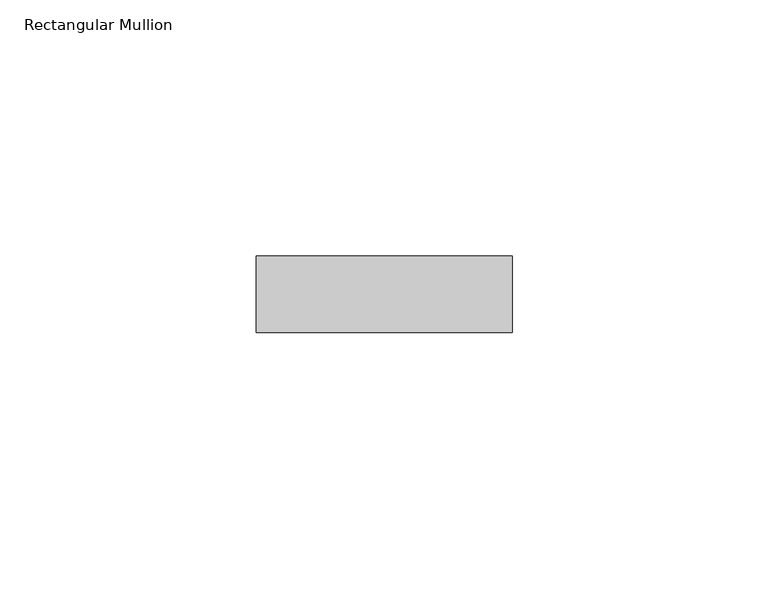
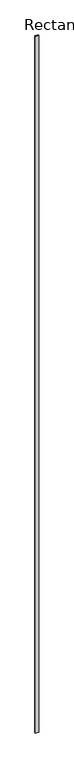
"""IFC4 building model written with IfcOpenShell, lengths in millimetres: member geometry, Rectangular Mullion : Ripa."""

import ifcopenshell
import ifcopenshell.guid

model = None  # the IFC model being written
_history = None  # IfcOwnerHistory: only IFC2X3 demands one
_inside = {}  # id of a spatial element -> (the spatial element, [elements in it])
_under = {}  # id of a project, library or spatial element -> (it, [spatial elements below it])
_declared = {}  # id of a project -> (the project, [libraries it declares])
_typed = {}  # id of a type object -> (the type object, [elements of that type])
_made_of = {}  # id of a material, layer set ... -> (it, [elements and type objects made of it])


def new_model(schema):
    """Start an empty IFC model of exactly this schema.

    Asked for "IFC4X3", IfcOpenShell would pick the latest addendum, in which some entities
    have other attributes; the version numbers below select the first issue.
    IFC2X3 requires an IfcOwnerHistory on every rooted entity: one is made here for all.
    """
    global model, _history
    if schema == "IFC4X3":
        model = ifcopenshell.file(schema_version=(4, 3, 0, 0))
    else:
        model = ifcopenshell.file(schema=schema)
    _inside.clear()
    _under.clear()
    _declared.clear()
    _typed.clear()
    _made_of.clear()
    _history = None
    if model.schema == "IFC2X3":
        org = make("IfcOrganization", Name="unknown")
        user = make(
            "IfcPersonAndOrganization",
            ThePerson=make("IfcPerson", FamilyName="unknown"),
            TheOrganization=org,
        )
        app = make(
            "IfcApplication",
            ApplicationDeveloper=org,
            Version="unknown",
            ApplicationFullName="unknown",
            ApplicationIdentifier="unknown",
        )
        _history = make(
            "IfcOwnerHistory",
            OwningUser=user,
            OwningApplication=app,
            ChangeAction="ADDED",
            CreationDate=0,
        )
    return model


def make(cls, **values):
    """One entity of the class cls with the attributes given. An attribute that is None is left unset."""
    return model.create_entity(
        cls, **{name: value for name, value in values.items() if value is not None}
    )


def rooted(cls, **values):
    """An entity with a GlobalId (a new one), such as an element, a storey or a relation."""
    return make(cls, GlobalId=ifcopenshell.guid.new(), OwnerHistory=_history, **values)


def si_unit(unit_type, name, prefix=None):
    """IfcSIUnit, for example si_unit("LENGTHUNIT", "METRE", prefix="MILLI")."""
    return make("IfcSIUnit", UnitType=unit_type, Prefix=prefix, Name=name)


def assignment(units):
    """IfcUnitAssignment: the units of a project."""
    return None if units is None else make("IfcUnitAssignment", Units=units)


def point(xyz):
    """IfcCartesianPoint."""
    return None if xyz is None else make("IfcCartesianPoint", Coordinates=xyz)


def direction(xyz):
    """IfcDirection."""
    return None if xyz is None else make("IfcDirection", DirectionRatios=xyz)


def frame(location, z_axis=None, x_axis=None):
    """IfcAxis2Placement3D, a coordinate frame: its origin and axes. An axis left out is left unset."""
    return make(
        "IfcAxis2Placement3D",
        Location=point(location),
        Axis=direction(z_axis),
        RefDirection=direction(x_axis),
    )


def origin():
    """The frame at (0, 0, 0) with its axes left unset."""
    return frame((0.0, 0.0, 0.0))


def place(relative_to, where):
    """IfcLocalPlacement: puts the frame where relative to a parent placement (None: the world)."""
    return make(
        "IfcLocalPlacement", PlacementRelTo=relative_to, RelativePlacement=where
    )


def context(
    kind, dimensions, precision=None, world=None, true_north=None, identifier=None
):
    """IfcGeometricRepresentationContext, for example the 3D "Model" context."""
    return make(
        "IfcGeometricRepresentationContext",
        ContextIdentifier=identifier,
        ContextType=kind,
        CoordinateSpaceDimension=dimensions,
        Precision=precision,
        WorldCoordinateSystem=world,
        TrueNorth=true_north,
    )


def project(units=None, contexts=None):
    """IfcProject with its units and contexts."""
    return rooted(
        "IfcProject",
        Name="project",
        RepresentationContexts=contexts,
        UnitsInContext=assignment(units),
    )


def spatial(cls, under=None, at=None, **own):
    """A site, building, storey or space (cls), placed at a placement, below another one or the project."""
    s = rooted(cls, ObjectPlacement=at, **own)
    if under is not None:
        _under.setdefault(under.id(), (under, []))[1].append(s)
    return s


def polyline(points):
    """IfcPolyline through the points."""
    return make("IfcPolyline", Points=[point(p) for p in points])


def outline(outer, holes=None, kind="AREA"):
    """IfcArbitraryClosedProfileDef: a profile drawn as a closed curve; with holes, ...WithVoids."""
    if holes is None:
        return make("IfcArbitraryClosedProfileDef", ProfileType=kind, OuterCurve=outer)
    return make(
        "IfcArbitraryProfileDefWithVoids",
        ProfileType=kind,
        OuterCurve=outer,
        InnerCurves=holes,
    )


def extrude(swept, where, along, depth):
    """IfcExtrudedAreaSolid: the profile swept, set in the frame where, extruded along a direction by depth."""
    return make(
        "IfcExtrudedAreaSolid",
        SweptArea=swept,
        Position=where,
        ExtrudedDirection=direction(along),
        Depth=depth,
    )


def shape(context_of_items, identifier, shape_type, items):
    """IfcShapeRepresentation: the items that make up one representation, for example the "Body"."""
    return make(
        "IfcShapeRepresentation",
        ContextOfItems=context_of_items,
        RepresentationIdentifier=identifier,
        RepresentationType=shape_type,
        Items=items,
    )


def source(mapping_origin, context_of_items, identifier, shape_type, items):
    """IfcRepresentationMap: a shape defined once, which mapped items show again and again."""
    return make(
        "IfcRepresentationMap",
        MappingOrigin=mapping_origin,
        MappedRepresentation=shape(context_of_items, identifier, shape_type, items),
    )


def transform(
    local_origin,
    x_axis=None,
    y_axis=None,
    z_axis=None,
    scale=None,
    scale2=None,
    scale3=None,
    uniform=True,
):
    """IfcCartesianTransformationOperator3D, or its non-uniform kind. x_axis, y_axis, z_axis: its Axis1, 2, 3."""
    if uniform:
        return make(
            "IfcCartesianTransformationOperator3D",
            Axis1=direction(x_axis),
            Axis2=direction(y_axis),
            LocalOrigin=point(local_origin),
            Scale=scale,
            Axis3=direction(z_axis),
        )
    return make(
        "IfcCartesianTransformationOperator3DnonUniform",
        Axis1=direction(x_axis),
        Axis2=direction(y_axis),
        LocalOrigin=point(local_origin),
        Scale=scale,
        Axis3=direction(z_axis),
        Scale2=scale2,
        Scale3=scale3,
    )


def mapped(mapping_source, mapping_target):
    """IfcMappedItem: shows the shape of a source again, moved by a transform."""
    return make(
        "IfcMappedItem", MappingSource=mapping_source, MappingTarget=mapping_target
    )


def made_of(thing, what):
    """Note that an element or type object is made of a material, layer set ...; save() writes the relation."""
    if what is not None:
        _made_of.setdefault(what.id(), (what, []))[1].append(thing)
    return thing


def element(
    cls,
    number,
    at=None,
    inside=None,
    cuts=None,
    type_object=None,
    material=None,
    context=None,
    identifier="Body",
    shape_type=None,
    held_by="IfcProductDefinitionShape",
    body=None,
    shapes=None,
    **own,
):
    """One element of the class cls, such as IfcWall. Its Tag is "e" and its number.

    at: its placement. inside: the storey or other place that contains it. cuts: it is an
    opening in that element (IfcRelVoidsElement). A single representation is given by context,
    identifier, shape_type and body (its items); several are given by shapes. held_by: the class
    of the entity that holds the representations. save() writes the other relations.
    """
    e = rooted(cls, Tag="e%d" % number, ObjectPlacement=at, **own)
    if body is not None:
        shapes = [shape(context, identifier, shape_type, body)]
    if shapes is not None:
        e.Representation = make(held_by, Representations=shapes)
    if inside is not None:
        _inside.setdefault(inside.id(), (inside, []))[1].append(e)
    if cuts is not None:
        rooted(
            "IfcRelVoidsElement", RelatingBuildingElement=cuts, RelatedOpeningElement=e
        )
    if type_object is not None:
        _typed.setdefault(type_object.id(), (type_object, []))[1].append(e)
    return made_of(e, material)


def aggregate(whole, parts):
    """IfcRelAggregates: a whole, such as a stair, and the parts it consists of."""
    return rooted("IfcRelAggregates", RelatingObject=whole, RelatedObjects=parts)


def save(model, path):
    """Write the relations noted so far, then the file.

    IfcRelAggregates (storeys below a building ...), IfcRelContainedInSpatialStructure (elements
    in a storey), IfcRelDefinesByType, IfcRelAssociatesMaterial and IfcRelDeclares: one each for
    every whole, place, type object, material and project.
    """
    for whole, parts in _under.values():
        aggregate(whole, parts)
    for where, things in _inside.values():
        rooted(
            "IfcRelContainedInSpatialStructure",
            RelatedElements=things,
            RelatingStructure=where,
        )
    for kind, things in _typed.values():
        rooted("IfcRelDefinesByType", RelatedObjects=things, RelatingType=kind)
    for what, things in _made_of.values():
        rooted("IfcRelAssociatesMaterial", RelatedObjects=things, RelatingMaterial=what)
    for by, libraries in _declared.values():
        rooted("IfcRelDeclares", RelatingContext=by, RelatedDefinitions=libraries)
    model.write(path)


def rectangular_mullion_dcbef4f8(model_context):
    return source(origin(), model_context, "Body", "SweptSolid", [
        extrude(outline(polyline([(0.0, -75.0), (-50.0, -75.0), (-50.0, -60.0), (0.0, -60.0), (0.0, -75.0)])), frame((0.0, 0.0, -11499.6172534), z_axis=(0.0, 0.0, 1.0), x_axis=(1.0, 0.0, 0.0)), (0.0, 0.0, 1.0), 11499.6172534),
    ])


if __name__ == "__main__":
    model = new_model("IFC4")
    model_context = context("Model", 3, world=origin())
    ifc_project = project(units=[si_unit("LENGTHUNIT", "METRE", prefix="MILLI")], contexts=[model_context])
    site = spatial("IfcSite", under=ifc_project)
    building = spatial("IfcBuilding", under=site)
    placement = place(None, origin())
    rectangular_mullion_shape = rectangular_mullion_dcbef4f8(model_context)
    element("IfcMember", 1, ObjectType="Rectangular Mullion : Ripa", at=placement, inside=building, context=model_context, shape_type="MappedRepresentation", body=[
        mapped(rectangular_mullion_shape, transform((0.0, 0.0, 0.0), x_axis=(1.0, 0.0, 0.0), y_axis=(0.0, 1.0, 0.0), z_axis=(0.0, 0.0, 1.0))),
    ])
    save(model, "model.ifc")
